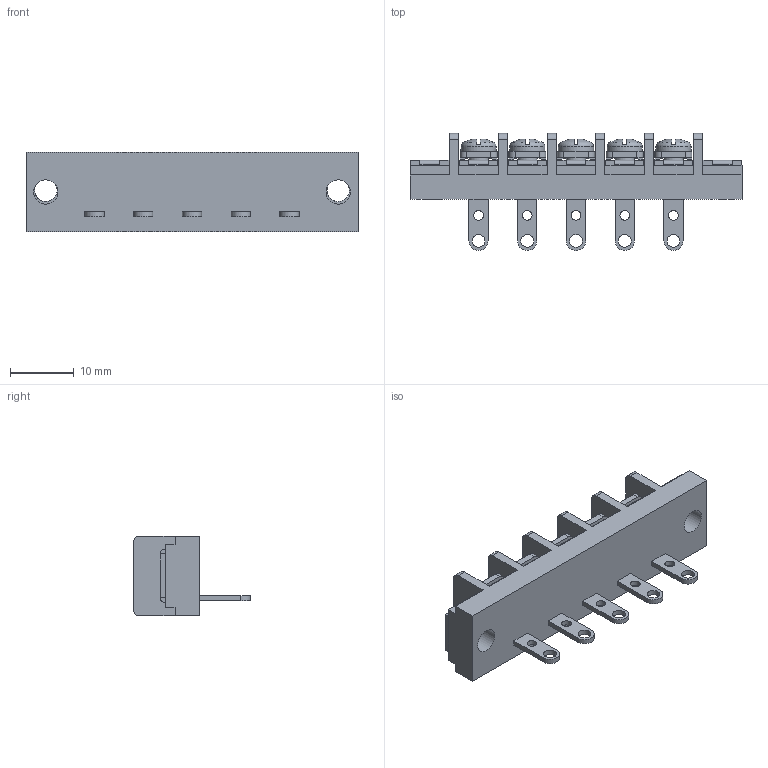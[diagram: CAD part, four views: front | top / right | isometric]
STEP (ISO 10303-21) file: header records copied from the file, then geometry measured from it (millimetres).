
FILE_DESCRIPTION(/* description */ ('Alibre Inc.'),/* implementation_level */ '2;1');
FILE_NAME(/* name */ 'export0',/* time_stamp */ '2015-10-26T18:03:56+09:00',/* author */ (''),/* organization */ (''),/* preprocessor_version */ 'ST-DEVELOPER v14',/* originating_system */ 'Alibre',/* authorisation */ '');
FILE_SCHEMA (('CONFIG_CONTROL_DESIGN'));
Length unit declared in the file: centimetre
Products named in the file (1): ID_1
Bounding box: 51.92 x 18.3 x 12.5 mm (x, y, z)
Volume: 4375.8 mm3; surface area: 4172.2 mm2
Topology: 1 solids, 17 shells, 936 faces, 2531 edges, 1671 vertices
Faces by surface type: plane 712, bspline 104, cylinder 80, cone 20, torus 10, sphere 10
Full cylindrical faces by diameter (mm): 1.5 x5, 2 x5, 3 x5, 3.5 x2, 3.8 x2, 5.5 x5
Entity records: 27980 total; most frequent: CARTESIAN_POINT 6334, ORIENTED_EDGE 4946, DIRECTION 3317, EDGE_CURVE 2473, VECTOR 1796, LINE 1796, VERTEX_POINT 1647, AXIS2_PLACEMENT_3D 1083
